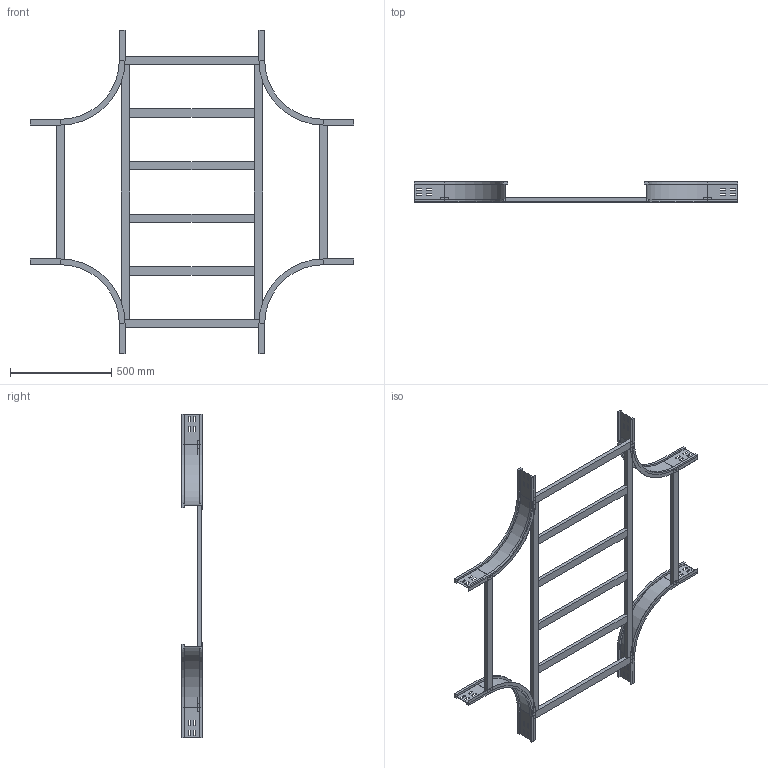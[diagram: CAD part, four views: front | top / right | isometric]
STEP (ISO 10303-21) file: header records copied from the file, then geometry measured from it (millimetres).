
FILE_DESCRIPTION (( 'STEP AP214' ), '1' );
FILE_NAME ('17S3D700.step', '2025-02-21T16:16:09', ( '' ), ( '' ), 'SwSTEP 2.0', 'SolidWorks 2023', '' );
FILE_SCHEMA (( 'AUTOMOTIVE_DESIGN' ));
Length unit declared in the file: millimetre
Products named in the file (5): TRAVERSINO_700; LONGH.INTERNO 90°_H100_R300; TRAVERSINO_LONG._R300+700; 17S3D700; TRAVERSINO_INTERMEDIO_X_R300+700
Assembly tree (14 placements, depth 2):
  17S3D700
    LONGH.INTERNO 90°_H100_R300  x4
    TRAVERSINO_700  x4
    TRAVERSINO_INTERMEDIO_X_R300+700  x4
    TRAVERSINO_LONG._R300+700  x2
Bounding box: 1600 x 100 x 1600 mm (x, y, z)
Volume: 7922084.2 mm3; surface area: 1868744.2 mm2
Topology: 14 solids, 14 shells, 340 faces, 840 edges, 528 vertices
Faces by surface type: plane 316, cylinder 24
Entity records: 2786 total; most frequent: CARTESIAN_POINT 457, DIRECTION 438, ORIENTED_EDGE 432, EDGE_CURVE 216, VECTOR 204, LINE 204, VERTEX_POINT 136, AXIS2_PLACEMENT_3D 117
